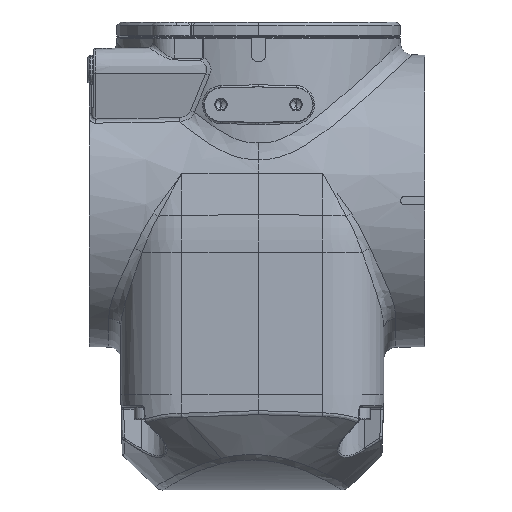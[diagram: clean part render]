
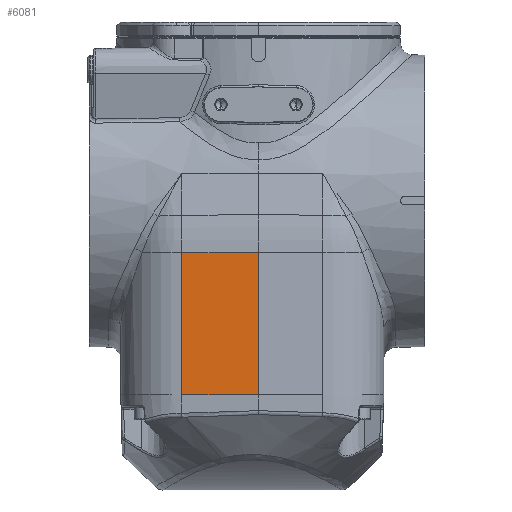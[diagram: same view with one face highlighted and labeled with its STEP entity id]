
A CAD part, top view. The second image highlights one B-rep face of the part: STEP entity #6081.
In plain terms, the highlighted planar face has unit normal (-0.026, 0, 1).
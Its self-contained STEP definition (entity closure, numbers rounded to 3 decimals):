
#163 = LINE ( 'NONE', #13420, #5344 ) ;
#820 = VECTOR ( 'NONE', #5789, 1000. ) ;
#2938 = EDGE_CURVE ( 'NONE', #7988, #7608, #163, .T. ) ;
#3010 = VERTEX_POINT ( 'NONE', #21276 ) ;
#4179 = ORIENTED_EDGE ( 'NONE', *, *, #2938, .F. ) ;
#4609 = DIRECTION ( 'NONE',  ( 1., 0., 0.026 ) ) ;
#4938 = VERTEX_POINT ( 'NONE', #18339 ) ;
#5117 = CARTESIAN_POINT ( 'NONE',  ( -18.393, 138.49, 412.518 ) ) ;
#5344 = VECTOR ( 'NONE', #5773, 1000. ) ;
#5579 = CARTESIAN_POINT ( 'NONE',  ( -18.393, 138.49, 412.518 ) ) ;
#5773 = DIRECTION ( 'NONE',  ( 0., 1., 0. ) ) ;
#5789 = DIRECTION ( 'NONE',  ( 0., 1., 0. ) ) ;
#6081 = ADVANCED_FACE ( 'NONE', ( #23942 ), #8439, .T. ) ;
#7608 = VERTEX_POINT ( 'NONE', #16205 ) ;
#7988 = VERTEX_POINT ( 'NONE', #5579 ) ;
#8439 = PLANE ( 'NONE',  #17964 ) ;
#9496 = LINE ( 'NONE', #18892, #14351 ) ;
#9869 = LINE ( 'NONE', #10000, #820 ) ;
#10000 = CARTESIAN_POINT ( 'NONE',  ( 0., 138.49, 413. ) ) ;
#10099 = EDGE_CURVE ( 'NONE', #7988, #4938, #11091, .T. ) ;
#11091 = LINE ( 'NONE', #5117, #14458 ) ;
#12121 = CARTESIAN_POINT ( 'NONE',  ( -18.393, 138.49, 412.518 ) ) ;
#12376 = DIRECTION ( 'NONE',  ( -0.026, 0., 1. ) ) ;
#13074 = DIRECTION ( 'NONE',  ( -1., 0., -0.026 ) ) ;
#13420 = CARTESIAN_POINT ( 'NONE',  ( -18.393, 138.49, 412.518 ) ) ;
#14351 = VECTOR ( 'NONE', #13074, 1000. ) ;
#14458 = VECTOR ( 'NONE', #20751, 1000. ) ;
#16205 = CARTESIAN_POINT ( 'NONE',  ( -18.393, 172.568, 412.518 ) ) ;
#17964 = AXIS2_PLACEMENT_3D ( 'NONE', #12121, #12376, #4609 ) ;
#18016 = ORIENTED_EDGE ( 'NONE', *, *, #10099, .T. ) ;
#18339 = CARTESIAN_POINT ( 'NONE',  ( 0., 138.49, 413. ) ) ;
#18486 = EDGE_CURVE ( 'NONE', #4938, #3010, #9869, .T. ) ;
#18892 = CARTESIAN_POINT ( 'NONE',  ( 0., 172.568, 413. ) ) ;
#19390 = EDGE_CURVE ( 'NONE', #3010, #7608, #9496, .T. ) ;
#19775 = ORIENTED_EDGE ( 'NONE', *, *, #19390, .T. ) ;
#20751 = DIRECTION ( 'NONE',  ( 1., 0., 0.026 ) ) ;
#21276 = CARTESIAN_POINT ( 'NONE',  ( 0., 172.568, 413. ) ) ;
#22061 = EDGE_LOOP ( 'NONE', ( #23469, #19775, #4179, #18016 ) ) ;
#23469 = ORIENTED_EDGE ( 'NONE', *, *, #18486, .T. ) ;
#23942 = FACE_OUTER_BOUND ( 'NONE', #22061, .T. ) ;
